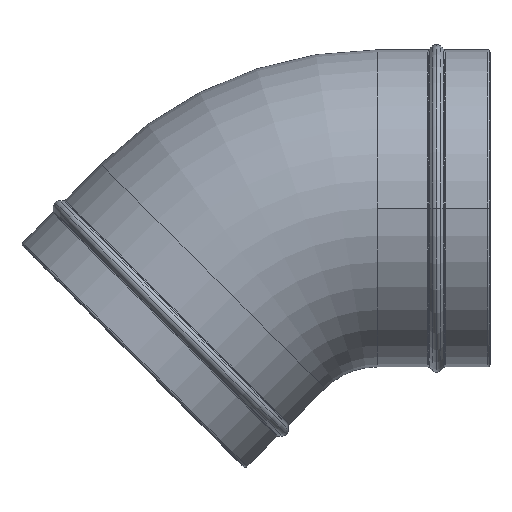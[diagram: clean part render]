
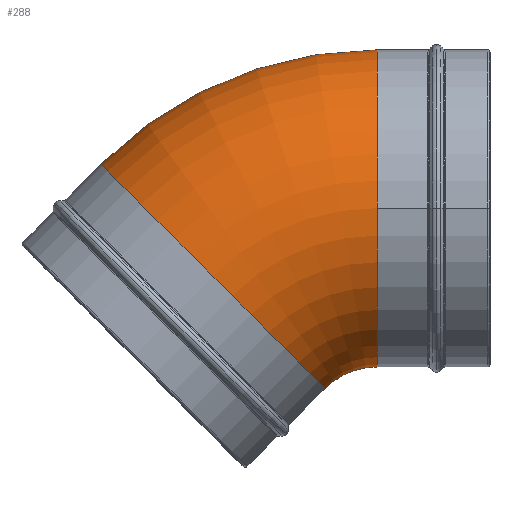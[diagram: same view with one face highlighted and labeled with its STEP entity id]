
A CAD part, top view. The second image highlights one B-rep face of the part: STEP entity #288.
In plain terms, the highlighted toroidal (fillet/blend) face has major radius 150 mm and minor radius 102.4 mm.
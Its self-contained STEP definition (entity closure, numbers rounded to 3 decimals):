
#130=TOROIDAL_SURFACE('',#1017,150.,102.4);
#190=FACE_OUTER_BOUND('',#354,.T.);
#288=ADVANCED_FACE('',(#190),#130,.T.);
#354=EDGE_LOOP('',(#524,#525,#526,#527,#528));
#524=ORIENTED_EDGE('',*,*,#765,.T.);
#525=ORIENTED_EDGE('',*,*,#762,.T.);
#526=ORIENTED_EDGE('',*,*,#760,.T.);
#527=ORIENTED_EDGE('',*,*,#767,.F.);
#528=ORIENTED_EDGE('',*,*,#768,.F.);
#665=VERTEX_POINT('',#1562);
#666=VERTEX_POINT('',#1564);
#667=VERTEX_POINT('',#1568);
#668=VERTEX_POINT('',#1574);
#669=VERTEX_POINT('',#1576);
#760=EDGE_CURVE('',#666,#665,#872,.T.);
#762=EDGE_CURVE('',#667,#666,#873,.T.);
#765=EDGE_CURVE('',#668,#667,#876,.T.);
#767=EDGE_CURVE('',#669,#665,#878,.T.);
#768=EDGE_CURVE('',#668,#669,#879,.T.);
#872=CIRCLE('',#1005,102.4);
#873=CIRCLE('',#1007,102.4);
#876=CIRCLE('',#1012,47.6);
#878=CIRCLE('',#1014,252.4);
#879=CIRCLE('',#1016,102.4);
#1005=AXIS2_PLACEMENT_3D('',#1563,#1265,#1266);
#1007=AXIS2_PLACEMENT_3D('',#1567,#1270,#1271);
#1012=AXIS2_PLACEMENT_3D('',#1573,#1280,#1281);
#1014=AXIS2_PLACEMENT_3D('',#1577,#1284,#1285);
#1016=AXIS2_PLACEMENT_3D('',#1579,#1288,#1289);
#1017=AXIS2_PLACEMENT_3D('',#1580,#1290,#1291);
#1265=DIRECTION('',(-1.,0.,0.));
#1266=DIRECTION('',(0.,0.,1.));
#1270=DIRECTION('',(-1.,0.,0.));
#1271=DIRECTION('',(0.,-1.,0.));
#1280=DIRECTION('',(0.,0.,-1.));
#1281=DIRECTION('',(-0.707,0.707,0.));
#1284=DIRECTION('',(0.,0.,-1.));
#1285=DIRECTION('',(-0.707,0.707,0.));
#1288=DIRECTION('',(-0.707,-0.707,0.));
#1289=DIRECTION('',(0.707,-0.707,0.));
#1290=DIRECTION('',(0.,0.,1.));
#1291=DIRECTION('',(0.707,-0.707,0.));
#1562=CARTESIAN_POINT('',(62.132,102.4,0.));
#1563=CARTESIAN_POINT('',(62.132,0.,0.));
#1564=CARTESIAN_POINT('',(62.132,0.,102.4));
#1567=CARTESIAN_POINT('',(62.132,0.,0.));
#1568=CARTESIAN_POINT('',(62.132,-102.4,0.));
#1573=CARTESIAN_POINT('',(62.132,-150.,0.));
#1574=CARTESIAN_POINT('',(28.474,-116.342,0.));
#1576=CARTESIAN_POINT('',(-116.342,28.474,0.));
#1577=CARTESIAN_POINT('',(62.132,-150.,0.));
#1579=CARTESIAN_POINT('',(-43.934,-43.934,0.));
#1580=CARTESIAN_POINT('',(62.132,-150.,0.));
